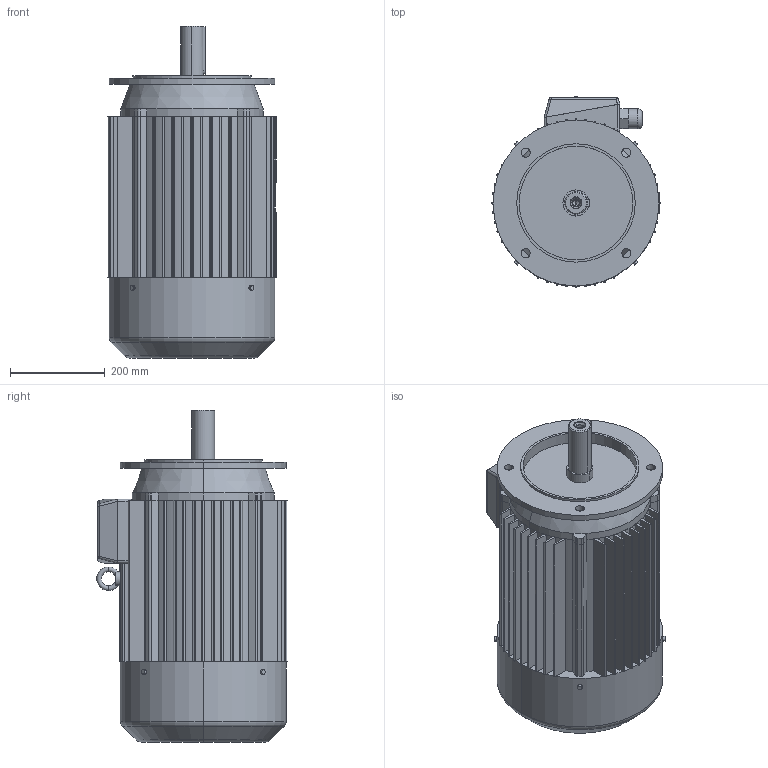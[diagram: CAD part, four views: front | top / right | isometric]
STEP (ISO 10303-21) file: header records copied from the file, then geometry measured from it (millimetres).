
FILE_DESCRIPTION (( 'STEP AP203' ), '1' );
FILE_NAME ('2SIEK180M2,4,L4,6.STEP', '2012-10-29T08:24:26', ( 'INDUKTA' ), ( 'CANTONI MOTOR' ), 'SwSTEP 2.0', 'SolidWorks 2003064', '' );
FILE_SCHEMA (( 'CONFIG_CONTROL_DESIGN' ));
Length unit declared in the file: millimetre
Products named in the file (1): 2SIEK180M2,4,L4,6
Bounding box: 354.99 x 402.49 x 701 mm (x, y, z)
Volume: 48405611.6 mm3; surface area: 1995424.9 mm2
Topology: 12 solids, 12 shells, 394 faces, 1037 edges, 665 vertices
Faces by surface type: cylinder 181, plane 179, torus 16, cone 14, sphere 4
Entity records: 12478 total; most frequent: CARTESIAN_POINT 2402, DIRECTION 2192, ORIENTED_EDGE 2062, EDGE_CURVE 1031, AXIS2_PLACEMENT_3D 791, VERTEX_POINT 665, VECTOR 610, LINE 610
